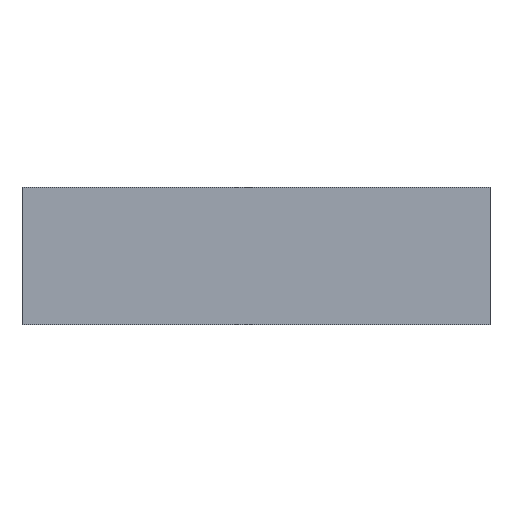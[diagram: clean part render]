
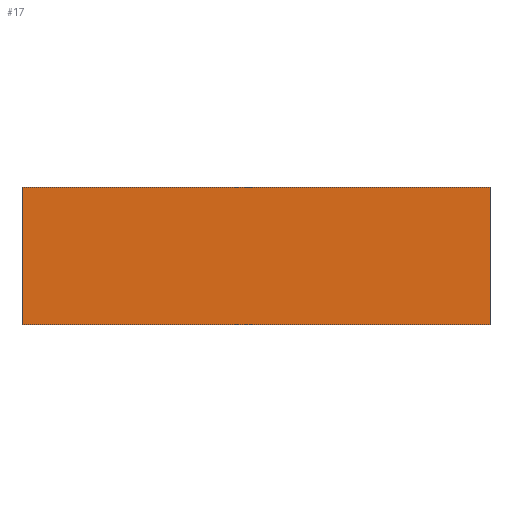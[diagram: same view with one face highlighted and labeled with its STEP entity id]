
A CAD part, front view. The second image highlights one B-rep face of the part: STEP entity #17.
In plain terms, the highlighted planar face has unit normal (0, -1, 0).
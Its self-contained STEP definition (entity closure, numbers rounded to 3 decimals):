
#17 = ADVANCED_FACE ( 'NONE', ( #518 ), #57, .F. ) ;
#46 = DIRECTION ( 'NONE',  ( -1., 0., 0. ) ) ;
#47 = DIRECTION ( 'NONE',  ( 0., 1., 0. ) ) ;
#53 = CARTESIAN_POINT ( 'NONE',  ( -204., 0., 120. ) ) ;
#57 = PLANE ( 'NONE',  #698 ) ;
#109 = VERTEX_POINT ( 'NONE', #122 ) ;
#115 = VERTEX_POINT ( 'NONE', #153 ) ;
#116 = VERTEX_POINT ( 'NONE', #154 ) ;
#122 = CARTESIAN_POINT ( 'NONE',  ( 204., 0., 120. ) ) ;
#153 = CARTESIAN_POINT ( 'NONE',  ( 204., 0., 0. ) ) ;
#154 = CARTESIAN_POINT ( 'NONE',  ( -204., 0., 0. ) ) ;
#205 = CARTESIAN_POINT ( 'NONE',  ( -204., 0., 0. ) ) ;
#208 = DIRECTION ( 'NONE',  ( 1., 0., 0. ) ) ;
#237 = CARTESIAN_POINT ( 'NONE',  ( -204., 0., 120. ) ) ;
#238 = DIRECTION ( 'NONE',  ( 0., 0., -1. ) ) ;
#253 = CARTESIAN_POINT ( 'NONE',  ( 204., 0., 120. ) ) ;
#254 = DIRECTION ( 'NONE',  ( 0., 0., -1. ) ) ;
#281 = CARTESIAN_POINT ( 'NONE',  ( -204., 0., 120. ) ) ;
#282 = DIRECTION ( 'NONE',  ( 1., 0., 0. ) ) ;
#309 = CARTESIAN_POINT ( 'NONE',  ( -204., 0., 120. ) ) ;
#392 = ORIENTED_EDGE ( 'NONE', *, *, #689, .F. ) ;
#393 = ORIENTED_EDGE ( 'NONE', *, *, #718, .F. ) ;
#394 = ORIENTED_EDGE ( 'NONE', *, *, #680, .T. ) ;
#442 = ORIENTED_EDGE ( 'NONE', *, *, #662, .T. ) ;
#506 = EDGE_LOOP ( 'NONE', ( #442, #392, #393, #394 ) ) ;
#518 = FACE_OUTER_BOUND ( 'NONE', #506, .T. ) ;
#551 = LINE ( 'NONE', #205, #556 ) ;
#556 = VECTOR ( 'NONE', #208, 1000. ) ;
#577 = LINE ( 'NONE', #237, #578 ) ;
#578 = VECTOR ( 'NONE', #238, 1000. ) ;
#593 = LINE ( 'NONE', #253, #594 ) ;
#594 = VECTOR ( 'NONE', #254, 1000. ) ;
#617 = LINE ( 'NONE', #281, #618 ) ;
#618 = VECTOR ( 'NONE', #282, 1000. ) ;
#662 = EDGE_CURVE ( 'NONE', #116, #115, #551, .T. ) ;
#680 = EDGE_CURVE ( 'NONE', #740, #116, #577, .T. ) ;
#689 = EDGE_CURVE ( 'NONE', #109, #115, #593, .T. ) ;
#698 = AXIS2_PLACEMENT_3D ( 'NONE', #53, #47, #46 ) ;
#718 = EDGE_CURVE ( 'NONE', #740, #109, #617, .T. ) ;
#740 = VERTEX_POINT ( 'NONE', #309 ) ;
